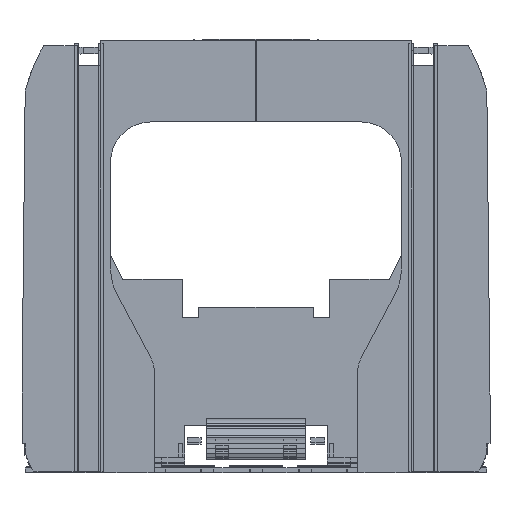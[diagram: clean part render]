
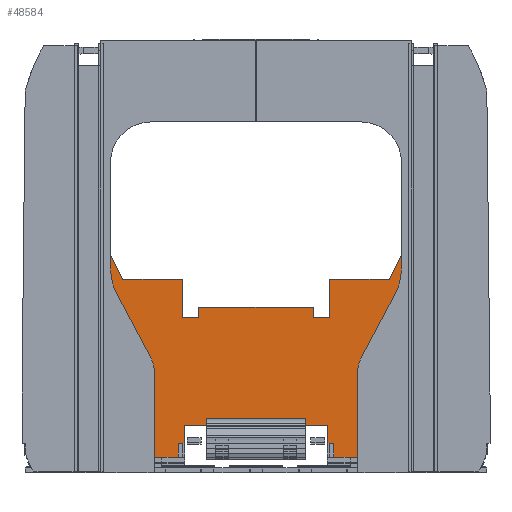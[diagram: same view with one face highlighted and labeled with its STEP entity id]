
A CAD part, left-side view. The second image highlights one B-rep face of the part: STEP entity #48584.
In plain terms, the highlighted planar face has unit normal (-1, 0, 0).
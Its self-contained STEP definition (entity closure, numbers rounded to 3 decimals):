
#48272=CARTESIAN_POINT('Vertex',(3247.5,-1103.773,2120.)) ;
#48275=CARTESIAN_POINT('Line Origine',(3247.5,-1053.773,2120.)) ;
#48279=CARTESIAN_POINT('Vertex',(3247.5,-1003.773,2120.)) ;
#48313=CARTESIAN_POINT('Vertex',(3247.5,-1103.773,2020.)) ;
#48316=CARTESIAN_POINT('Line Origine',(3247.5,-1103.773,2070.)) ;
#48342=CARTESIAN_POINT('Vertex',(3247.5,-1003.773,2020.)) ;
#48345=CARTESIAN_POINT('Line Origine',(3247.5,-1053.773,2020.)) ;
#48362=CARTESIAN_POINT('Line Origine',(3247.5,-1003.773,2070.)) ;
#48379=CARTESIAN_POINT('Axis2P3D Location',(3247.5,0.,0.)) ;
#48384=CARTESIAN_POINT('Line Origine',(3247.5,0.,2020.)) ;
#48388=CARTESIAN_POINT('Vertex',(3247.5,453.773,2020.)) ;
#48390=CARTESIAN_POINT('Vertex',(3247.5,353.773,2020.)) ;
#48393=CARTESIAN_POINT('Line Origine',(3247.5,453.773,1825.25)) ;
#48397=CARTESIAN_POINT('Vertex',(3247.5,453.773,2255.5)) ;
#48400=CARTESIAN_POINT('Line Origine',(3247.5,0.,2255.5)) ;
#48404=CARTESIAN_POINT('Vertex',(3247.5,820.,2255.5)) ;
#48408=CARTESIAN_POINT('Control Point',(3247.5,937.5,2490.5)) ;
#48409=CARTESIAN_POINT('Control Point',(3247.5,820.,2255.5)) ;
#48410=CARTESIAN_POINT('Vertex',(3247.5,937.5,2490.5)) ;
#48413=CARTESIAN_POINT('Line Origine',(3247.5,0.,2490.5)) ;
#48417=CARTESIAN_POINT('Vertex',(3247.5,1128.773,2490.5)) ;
#48420=CARTESIAN_POINT('Line Origine',(3247.5,1128.773,1825.25)) ;
#48424=CARTESIAN_POINT('Vertex',(3247.5,1128.773,1160.)) ;
#48427=CARTESIAN_POINT('Line Origine',(3247.5,0.,1160.)) ;
#48431=CARTESIAN_POINT('Vertex',(3247.5,442.,1160.)) ;
#48434=CARTESIAN_POINT('Line Origine',(3247.5,442.,1825.25)) ;
#48438=CARTESIAN_POINT('Vertex',(3247.5,442.,1357.)) ;
#48441=CARTESIAN_POINT('Line Origine',(3247.5,0.,1357.)) ;
#48445=CARTESIAN_POINT('Vertex',(3247.5,-442.,1357.)) ;
#48448=CARTESIAN_POINT('Line Origine',(3247.5,-442.,1825.25)) ;
#48452=CARTESIAN_POINT('Vertex',(3247.5,-442.,1160.)) ;
#48455=CARTESIAN_POINT('Line Origine',(3247.5,0.,1160.)) ;
#48459=CARTESIAN_POINT('Vertex',(3247.5,-1128.773,1160.)) ;
#48462=CARTESIAN_POINT('Line Origine',(3247.5,-1128.773,1825.25)) ;
#48466=CARTESIAN_POINT('Vertex',(3247.5,-1128.773,2490.5)) ;
#48469=CARTESIAN_POINT('Line Origine',(3247.5,0.,2490.5)) ;
#48473=CARTESIAN_POINT('Vertex',(3247.5,-937.5,2490.5)) ;
#48477=CARTESIAN_POINT('Control Point',(3247.5,-937.5,2490.5)) ;
#48478=CARTESIAN_POINT('Control Point',(3247.5,-820.,2255.5)) ;
#48479=CARTESIAN_POINT('Vertex',(3247.5,-820.,2255.5)) ;
#48482=CARTESIAN_POINT('Line Origine',(3247.5,0.,2255.5)) ;
#48486=CARTESIAN_POINT('Vertex',(3247.5,-453.773,2255.5)) ;
#48489=CARTESIAN_POINT('Line Origine',(3247.5,-453.773,1825.25)) ;
#48493=CARTESIAN_POINT('Vertex',(3247.5,-453.773,2020.)) ;
#48496=CARTESIAN_POINT('Line Origine',(3247.5,0.,2020.)) ;
#48500=CARTESIAN_POINT('Vertex',(3247.5,-353.773,2020.)) ;
#48503=CARTESIAN_POINT('Line Origine',(3247.5,-353.773,1825.25)) ;
#48507=CARTESIAN_POINT('Vertex',(3247.5,-353.773,2085.5)) ;
#48510=CARTESIAN_POINT('Line Origine',(3247.5,0.,2085.5)) ;
#48514=CARTESIAN_POINT('Vertex',(3247.5,353.773,2085.5)) ;
#48517=CARTESIAN_POINT('Line Origine',(3247.5,353.773,1825.25)) ;
#48544=CARTESIAN_POINT('Line Origine',(3247.5,0.,2020.)) ;
#48548=CARTESIAN_POINT('Vertex',(3247.5,1103.773,2020.)) ;
#48550=CARTESIAN_POINT('Vertex',(3247.5,1003.773,2020.)) ;
#48553=CARTESIAN_POINT('Line Origine',(3247.5,1103.773,1825.25)) ;
#48557=CARTESIAN_POINT('Vertex',(3247.5,1103.773,2120.)) ;
#48560=CARTESIAN_POINT('Line Origine',(3247.5,0.,2120.)) ;
#48564=CARTESIAN_POINT('Vertex',(3247.5,1003.773,2120.)) ;
#48567=CARTESIAN_POINT('Line Origine',(3247.5,1003.773,1825.25)) ;
#48276=DIRECTION('Vector Direction',(0.,-1.,0.)) ;
#48317=DIRECTION('Vector Direction',(0.,0.,-1.)) ;
#48346=DIRECTION('Vector Direction',(0.,1.,0.)) ;
#48363=DIRECTION('Vector Direction',(0.,0.,1.)) ;
#48380=DIRECTION('Axis2P3D Direction',(1.,0.,0.)) ;
#48381=DIRECTION('Axis2P3D XDirection',(0.,1.,0.)) ;
#48385=DIRECTION('Vector Direction',(0.,1.,0.)) ;
#48394=DIRECTION('Vector Direction',(0.,0.,1.)) ;
#48401=DIRECTION('Vector Direction',(0.,1.,0.)) ;
#48414=DIRECTION('Vector Direction',(0.,1.,0.)) ;
#48421=DIRECTION('Vector Direction',(0.,0.,1.)) ;
#48428=DIRECTION('Vector Direction',(0.,1.,0.)) ;
#48435=DIRECTION('Vector Direction',(0.,0.,1.)) ;
#48442=DIRECTION('Vector Direction',(0.,1.,0.)) ;
#48449=DIRECTION('Vector Direction',(0.,0.,1.)) ;
#48456=DIRECTION('Vector Direction',(0.,1.,0.)) ;
#48463=DIRECTION('Vector Direction',(0.,0.,1.)) ;
#48470=DIRECTION('Vector Direction',(0.,1.,0.)) ;
#48483=DIRECTION('Vector Direction',(0.,1.,0.)) ;
#48490=DIRECTION('Vector Direction',(0.,0.,1.)) ;
#48497=DIRECTION('Vector Direction',(0.,1.,0.)) ;
#48504=DIRECTION('Vector Direction',(0.,0.,1.)) ;
#48511=DIRECTION('Vector Direction',(0.,1.,0.)) ;
#48518=DIRECTION('Vector Direction',(0.,0.,1.)) ;
#48545=DIRECTION('Vector Direction',(0.,1.,0.)) ;
#48554=DIRECTION('Vector Direction',(0.,0.,1.)) ;
#48561=DIRECTION('Vector Direction',(0.,1.,0.)) ;
#48568=DIRECTION('Vector Direction',(0.,0.,1.)) ;
#48382=AXIS2_PLACEMENT_3D('Plane Axis2P3D',#48379,#48380,#48381) ;
#48523=ORIENTED_EDGE('',*,*,#48392,.F.) ;
#48524=ORIENTED_EDGE('',*,*,#48399,.F.) ;
#48525=ORIENTED_EDGE('',*,*,#48406,.F.) ;
#48526=ORIENTED_EDGE('',*,*,#48412,.F.) ;
#48527=ORIENTED_EDGE('',*,*,#48419,.T.) ;
#48528=ORIENTED_EDGE('',*,*,#48426,.F.) ;
#48529=ORIENTED_EDGE('',*,*,#48433,.T.) ;
#48530=ORIENTED_EDGE('',*,*,#48440,.F.) ;
#48531=ORIENTED_EDGE('',*,*,#48447,.T.) ;
#48532=ORIENTED_EDGE('',*,*,#48454,.T.) ;
#48533=ORIENTED_EDGE('',*,*,#48461,.F.) ;
#48534=ORIENTED_EDGE('',*,*,#48468,.T.) ;
#48535=ORIENTED_EDGE('',*,*,#48475,.F.) ;
#48536=ORIENTED_EDGE('',*,*,#48481,.T.) ;
#48537=ORIENTED_EDGE('',*,*,#48488,.F.) ;
#48538=ORIENTED_EDGE('',*,*,#48495,.T.) ;
#48539=ORIENTED_EDGE('',*,*,#48502,.T.) ;
#48540=ORIENTED_EDGE('',*,*,#48509,.T.) ;
#48541=ORIENTED_EDGE('',*,*,#48516,.F.) ;
#48542=ORIENTED_EDGE('',*,*,#48521,.F.) ;
#48573=ORIENTED_EDGE('',*,*,#48552,.F.) ;
#48574=ORIENTED_EDGE('',*,*,#48559,.F.) ;
#48575=ORIENTED_EDGE('',*,*,#48566,.F.) ;
#48576=ORIENTED_EDGE('',*,*,#48571,.F.) ;
#48579=ORIENTED_EDGE('',*,*,#48349,.T.) ;
#48580=ORIENTED_EDGE('',*,*,#48366,.T.) ;
#48581=ORIENTED_EDGE('',*,*,#48281,.T.) ;
#48582=ORIENTED_EDGE('',*,*,#48320,.T.) ;
#48577=FACE_BOUND('',#48572,.T.) ;
#48583=FACE_BOUND('',#48578,.T.) ;
#48277=VECTOR('Line Direction',#48276,1.) ;
#48318=VECTOR('Line Direction',#48317,1.) ;
#48347=VECTOR('Line Direction',#48346,1.) ;
#48364=VECTOR('Line Direction',#48363,1.) ;
#48386=VECTOR('Line Direction',#48385,1.) ;
#48395=VECTOR('Line Direction',#48394,1.) ;
#48402=VECTOR('Line Direction',#48401,1.) ;
#48415=VECTOR('Line Direction',#48414,1.) ;
#48422=VECTOR('Line Direction',#48421,1.) ;
#48429=VECTOR('Line Direction',#48428,1.) ;
#48436=VECTOR('Line Direction',#48435,1.) ;
#48443=VECTOR('Line Direction',#48442,1.) ;
#48450=VECTOR('Line Direction',#48449,1.) ;
#48457=VECTOR('Line Direction',#48456,1.) ;
#48464=VECTOR('Line Direction',#48463,1.) ;
#48471=VECTOR('Line Direction',#48470,1.) ;
#48484=VECTOR('Line Direction',#48483,1.) ;
#48491=VECTOR('Line Direction',#48490,1.) ;
#48498=VECTOR('Line Direction',#48497,1.) ;
#48505=VECTOR('Line Direction',#48504,1.) ;
#48512=VECTOR('Line Direction',#48511,1.) ;
#48519=VECTOR('Line Direction',#48518,1.) ;
#48546=VECTOR('Line Direction',#48545,1.) ;
#48555=VECTOR('Line Direction',#48554,1.) ;
#48562=VECTOR('Line Direction',#48561,1.) ;
#48569=VECTOR('Line Direction',#48568,1.) ;
#48584=ADVANCED_FACE('Acoustic insulation',(#48543,#48577,#48583),#48383,.F.) ;
#48407=B_SPLINE_CURVE_WITH_KNOTS('',1,(#48408,#48409),.UNSPECIFIED.,.F.,.U.,(2,2),(-131.369,131.369),.UNSPECIFIED.) ;
#48476=B_SPLINE_CURVE_WITH_KNOTS('',1,(#48477,#48478),.UNSPECIFIED.,.F.,.U.,(2,2),(-131.369,131.369),.UNSPECIFIED.) ;
#48281=EDGE_CURVE('',#48280,#48273,#48278,.T.) ;
#48320=EDGE_CURVE('',#48273,#48314,#48319,.T.) ;
#48349=EDGE_CURVE('',#48314,#48343,#48348,.T.) ;
#48366=EDGE_CURVE('',#48343,#48280,#48365,.T.) ;
#48392=EDGE_CURVE('',#48389,#48391,#48387,.F.) ;
#48399=EDGE_CURVE('',#48398,#48389,#48396,.F.) ;
#48406=EDGE_CURVE('',#48405,#48398,#48403,.F.) ;
#48412=EDGE_CURVE('',#48411,#48405,#48407,.T.) ;
#48419=EDGE_CURVE('',#48411,#48418,#48416,.T.) ;
#48426=EDGE_CURVE('',#48425,#48418,#48423,.T.) ;
#48433=EDGE_CURVE('',#48425,#48432,#48430,.F.) ;
#48440=EDGE_CURVE('',#48439,#48432,#48437,.F.) ;
#48447=EDGE_CURVE('',#48439,#48446,#48444,.F.) ;
#48454=EDGE_CURVE('',#48446,#48453,#48451,.F.) ;
#48461=EDGE_CURVE('',#48460,#48453,#48458,.T.) ;
#48468=EDGE_CURVE('',#48460,#48467,#48465,.T.) ;
#48475=EDGE_CURVE('',#48474,#48467,#48472,.F.) ;
#48481=EDGE_CURVE('',#48474,#48480,#48476,.T.) ;
#48488=EDGE_CURVE('',#48487,#48480,#48485,.F.) ;
#48495=EDGE_CURVE('',#48487,#48494,#48492,.F.) ;
#48502=EDGE_CURVE('',#48494,#48501,#48499,.T.) ;
#48509=EDGE_CURVE('',#48501,#48508,#48506,.T.) ;
#48516=EDGE_CURVE('',#48515,#48508,#48513,.F.) ;
#48521=EDGE_CURVE('',#48391,#48515,#48520,.T.) ;
#48552=EDGE_CURVE('',#48549,#48551,#48547,.F.) ;
#48559=EDGE_CURVE('',#48558,#48549,#48556,.F.) ;
#48566=EDGE_CURVE('',#48565,#48558,#48563,.T.) ;
#48571=EDGE_CURVE('',#48551,#48565,#48570,.T.) ;
#48522=EDGE_LOOP('',(#48523,#48524,#48525,#48526,#48527,#48528,#48529,#48530,#48531,#48532,#48533,#48534,#48535,#48536,#48537,#48538,#48539,#48540,#48541,#48542)) ;
#48572=EDGE_LOOP('',(#48573,#48574,#48575,#48576)) ;
#48578=EDGE_LOOP('',(#48579,#48580,#48581,#48582)) ;
#48543=FACE_OUTER_BOUND('',#48522,.T.) ;
#48278=LINE('Line',#48275,#48277) ;
#48319=LINE('Line',#48316,#48318) ;
#48348=LINE('Line',#48345,#48347) ;
#48365=LINE('Line',#48362,#48364) ;
#48387=LINE('Line',#48384,#48386) ;
#48396=LINE('Line',#48393,#48395) ;
#48403=LINE('Line',#48400,#48402) ;
#48416=LINE('Line',#48413,#48415) ;
#48423=LINE('Line',#48420,#48422) ;
#48430=LINE('Line',#48427,#48429) ;
#48437=LINE('Line',#48434,#48436) ;
#48444=LINE('Line',#48441,#48443) ;
#48451=LINE('Line',#48448,#48450) ;
#48458=LINE('Line',#48455,#48457) ;
#48465=LINE('Line',#48462,#48464) ;
#48472=LINE('Line',#48469,#48471) ;
#48485=LINE('Line',#48482,#48484) ;
#48492=LINE('Line',#48489,#48491) ;
#48499=LINE('Line',#48496,#48498) ;
#48506=LINE('Line',#48503,#48505) ;
#48513=LINE('Line',#48510,#48512) ;
#48520=LINE('Line',#48517,#48519) ;
#48547=LINE('Line',#48544,#48546) ;
#48556=LINE('Line',#48553,#48555) ;
#48563=LINE('Line',#48560,#48562) ;
#48570=LINE('Line',#48567,#48569) ;
#48383=PLANE('',#48382) ;
#48273=VERTEX_POINT('',#48272) ;
#48280=VERTEX_POINT('',#48279) ;
#48314=VERTEX_POINT('',#48313) ;
#48343=VERTEX_POINT('',#48342) ;
#48389=VERTEX_POINT('',#48388) ;
#48391=VERTEX_POINT('',#48390) ;
#48398=VERTEX_POINT('',#48397) ;
#48405=VERTEX_POINT('',#48404) ;
#48411=VERTEX_POINT('',#48410) ;
#48418=VERTEX_POINT('',#48417) ;
#48425=VERTEX_POINT('',#48424) ;
#48432=VERTEX_POINT('',#48431) ;
#48439=VERTEX_POINT('',#48438) ;
#48446=VERTEX_POINT('',#48445) ;
#48453=VERTEX_POINT('',#48452) ;
#48460=VERTEX_POINT('',#48459) ;
#48467=VERTEX_POINT('',#48466) ;
#48474=VERTEX_POINT('',#48473) ;
#48480=VERTEX_POINT('',#48479) ;
#48487=VERTEX_POINT('',#48486) ;
#48494=VERTEX_POINT('',#48493) ;
#48501=VERTEX_POINT('',#48500) ;
#48508=VERTEX_POINT('',#48507) ;
#48515=VERTEX_POINT('',#48514) ;
#48549=VERTEX_POINT('',#48548) ;
#48551=VERTEX_POINT('',#48550) ;
#48558=VERTEX_POINT('',#48557) ;
#48565=VERTEX_POINT('',#48564) ;
